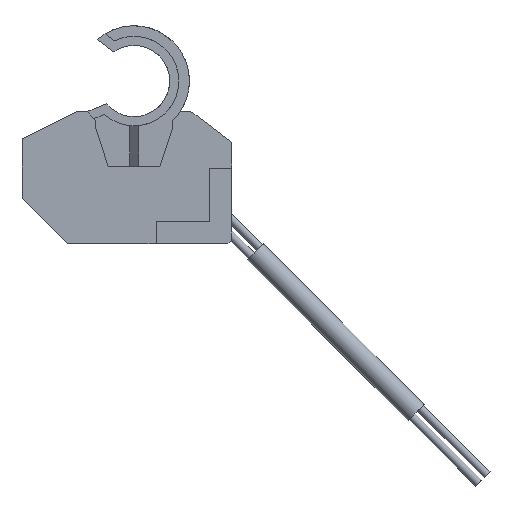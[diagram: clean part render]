
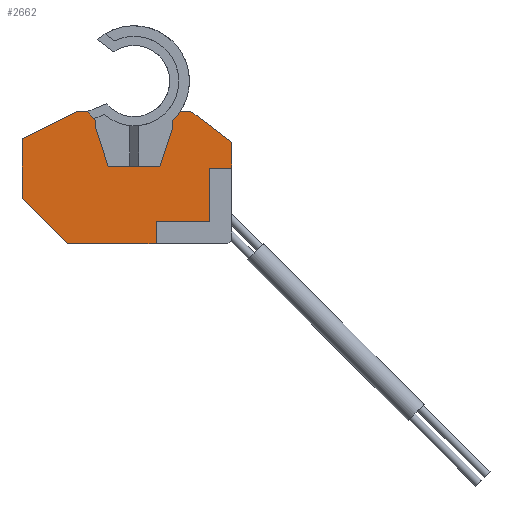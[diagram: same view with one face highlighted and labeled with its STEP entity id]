
A CAD part, left-side view. The second image highlights one B-rep face of the part: STEP entity #2662.
In plain terms, the highlighted planar face has unit normal (-1, 0, 0).
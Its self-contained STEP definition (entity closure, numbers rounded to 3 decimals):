
#28 = VECTOR ( 'NONE', #2427, 1000. ) ;
#102 = CARTESIAN_POINT ( 'NONE',  ( -3.35, -2.9, -21.5 ) ) ;
#112 = DIRECTION ( 'NONE',  ( 0., 0., 1. ) ) ;
#123 = CARTESIAN_POINT ( 'NONE',  ( -3.35, -12.9, -8.069 ) ) ;
#152 = ORIENTED_EDGE ( 'NONE', *, *, #3221, .T. ) ;
#159 = EDGE_CURVE ( 'NONE', #1053, #2196, #1012, .T. ) ;
#173 = CARTESIAN_POINT ( 'NONE',  ( -3.35, 5.05, -6.2 ) ) ;
#187 = VECTOR ( 'NONE', #1981, 1000. ) ;
#196 = DIRECTION ( 'NONE',  ( 0., 1., 0. ) ) ;
#239 = CARTESIAN_POINT ( 'NONE',  ( -3.35, -9.9, -11.5 ) ) ;
#281 = VERTEX_POINT ( 'NONE', #1157 ) ;
#322 = CARTESIAN_POINT ( 'NONE',  ( -3.35, 8.8, -21.5 ) ) ;
#326 = VERTEX_POINT ( 'NONE', #2699 ) ;
#338 = EDGE_CURVE ( 'NONE', #2275, #867, #1923, .T. ) ;
#357 = EDGE_CURVE ( 'NONE', #2403, #1660, #1167, .T. ) ;
#384 = LINE ( 'NONE', #626, #1658 ) ;
#404 = VECTOR ( 'NONE', #2999, 1000. ) ;
#422 = CARTESIAN_POINT ( 'NONE',  ( -3.35, 14.8, -7.6 ) ) ;
#426 = VECTOR ( 'NONE', #2698, 1000. ) ;
#456 = EDGE_CURVE ( 'NONE', #2764, #1929, #2576, .T. ) ;
#463 = CARTESIAN_POINT ( 'NONE',  ( -3.35, -2.9, -21.5 ) ) ;
#543 = LINE ( 'NONE', #2830, #3036 ) ;
#553 = CARTESIAN_POINT ( 'NONE',  ( -3.35, -7.5, -4. ) ) ;
#554 = CARTESIAN_POINT ( 'NONE',  ( -3.35, 14.8, -21.5 ) ) ;
#560 = VECTOR ( 'NONE', #196, 1000. ) ;
#563 = CARTESIAN_POINT ( 'NONE',  ( -3.35, 3.41, -11.25 ) ) ;
#571 = DIRECTION ( 'NONE',  ( 0., -1., 0. ) ) ;
#578 = DIRECTION ( 'NONE',  ( -1., 0., 0. ) ) ;
#622 = CARTESIAN_POINT ( 'NONE',  ( -3.35, -9.9, -18.5 ) ) ;
#626 = CARTESIAN_POINT ( 'NONE',  ( -3.35, -5.05, -6.2 ) ) ;
#672 = ORIENTED_EDGE ( 'NONE', *, *, #338, .F. ) ;
#689 = CARTESIAN_POINT ( 'NONE',  ( -3.35, -9.9, -21.5 ) ) ;
#698 = CARTESIAN_POINT ( 'NONE',  ( -3.35, 14.8, -18.5 ) ) ;
#719 = DIRECTION ( 'NONE',  ( 0., -0.309, -0.951 ) ) ;
#733 = CARTESIAN_POINT ( 'NONE',  ( -3.35, 5.05, -4. ) ) ;
#801 = ORIENTED_EDGE ( 'NONE', *, *, #1472, .F. ) ;
#814 = DIRECTION ( 'NONE',  ( 0., -1., 0. ) ) ;
#815 = VECTOR ( 'NONE', #2951, 1000. ) ;
#867 = VERTEX_POINT ( 'NONE', #622 ) ;
#886 = VERTEX_POINT ( 'NONE', #2418 ) ;
#899 = CARTESIAN_POINT ( 'NONE',  ( -3.35, 8.8, -21.5 ) ) ;
#901 = ORIENTED_EDGE ( 'NONE', *, *, #1917, .T. ) ;
#961 = CARTESIAN_POINT ( 'NONE',  ( -3.35, -12.9, -21.5 ) ) ;
#990 = CARTESIAN_POINT ( 'NONE',  ( -3.35, 14.8, -4. ) ) ;
#1012 = LINE ( 'NONE', #102, #815 ) ;
#1027 = ORIENTED_EDGE ( 'NONE', *, *, #2088, .F. ) ;
#1053 = VERTEX_POINT ( 'NONE', #2522 ) ;
#1060 = ORIENTED_EDGE ( 'NONE', *, *, #2021, .T. ) ;
#1112 = CARTESIAN_POINT ( 'NONE',  ( -3.35, 7.5, -4. ) ) ;
#1114 = LINE ( 'NONE', #2370, #1695 ) ;
#1122 = LINE ( 'NONE', #1646, #2412 ) ;
#1157 = CARTESIAN_POINT ( 'NONE',  ( -3.35, -5.05, -6.2 ) ) ;
#1167 = LINE ( 'NONE', #2286, #1755 ) ;
#1285 = DIRECTION ( 'NONE',  ( 0., -1., 0. ) ) ;
#1290 = EDGE_CURVE ( 'NONE', #1770, #2196, #2450, .T. ) ;
#1298 = VERTEX_POINT ( 'NONE', #2912 ) ;
#1308 = LINE ( 'NONE', #173, #2563 ) ;
#1331 = CARTESIAN_POINT ( 'NONE',  ( -3.35, -7.5, -4. ) ) ;
#1335 = EDGE_LOOP ( 'NONE', ( #1027, #2207, #2279, #901, #3181, #1060, #3126, #2445, #801, #672, #2430, #2929, #152, #2835, #2221, #1352, #3035 ) ) ;
#1352 = ORIENTED_EDGE ( 'NONE', *, *, #2385, .F. ) ;
#1362 = PLANE ( 'NONE',  #3224 ) ;
#1406 = DIRECTION ( 'NONE',  ( 0., 1., 0. ) ) ;
#1419 = VECTOR ( 'NONE', #3028, 1000. ) ;
#1448 = VERTEX_POINT ( 'NONE', #2724 ) ;
#1458 = EDGE_CURVE ( 'NONE', #1448, #2275, #1122, .T. ) ;
#1472 = EDGE_CURVE ( 'NONE', #867, #1053, #1743, .T. ) ;
#1551 = VECTOR ( 'NONE', #571, 1000. ) ;
#1580 = VERTEX_POINT ( 'NONE', #422 ) ;
#1598 = DIRECTION ( 'NONE',  ( 0., -0.309, 0.951 ) ) ;
#1601 = DIRECTION ( 'NONE',  ( 0., 0.799, 0.602 ) ) ;
#1646 = CARTESIAN_POINT ( 'NONE',  ( -3.35, 14.8, -11.5 ) ) ;
#1658 = VECTOR ( 'NONE', #112, 1000. ) ;
#1660 = VERTEX_POINT ( 'NONE', #2289 ) ;
#1671 = VECTOR ( 'NONE', #2008, 1000. ) ;
#1687 = CARTESIAN_POINT ( 'NONE',  ( -3.35, 5.05, -4. ) ) ;
#1695 = VECTOR ( 'NONE', #1598, 1000. ) ;
#1703 = VERTEX_POINT ( 'NONE', #553 ) ;
#1743 = LINE ( 'NONE', #698, #560 ) ;
#1755 = VECTOR ( 'NONE', #1996, 1000. ) ;
#1770 = VERTEX_POINT ( 'NONE', #322 ) ;
#1787 = LINE ( 'NONE', #899, #426 ) ;
#1862 = VECTOR ( 'NONE', #2757, 1000. ) ;
#1891 = EDGE_CURVE ( 'NONE', #281, #1298, #384, .T. ) ;
#1902 = LINE ( 'NONE', #2270, #187 ) ;
#1917 = EDGE_CURVE ( 'NONE', #886, #1580, #2936, .T. ) ;
#1923 = LINE ( 'NONE', #689, #404 ) ;
#1929 = VERTEX_POINT ( 'NONE', #2998 ) ;
#1978 = VERTEX_POINT ( 'NONE', #123 ) ;
#1981 = DIRECTION ( 'NONE',  ( 0., 0., 1. ) ) ;
#1996 = DIRECTION ( 'NONE',  ( 0., -1., 0. ) ) ;
#2008 = DIRECTION ( 'NONE',  ( 0., 0., -1. ) ) ;
#2021 = EDGE_CURVE ( 'NONE', #326, #1770, #1787, .T. ) ;
#2088 = EDGE_CURVE ( 'NONE', #1929, #2403, #1308, .T. ) ;
#2130 = EDGE_CURVE ( 'NONE', #326, #1580, #1902, .T. ) ;
#2177 = LINE ( 'NONE', #1331, #2877 ) ;
#2196 = VERTEX_POINT ( 'NONE', #463 ) ;
#2207 = ORIENTED_EDGE ( 'NONE', *, *, #456, .F. ) ;
#2221 = ORIENTED_EDGE ( 'NONE', *, *, #1891, .F. ) ;
#2269 = FACE_OUTER_BOUND ( 'NONE', #1335, .T. ) ;
#2270 = CARTESIAN_POINT ( 'NONE',  ( -3.35, 14.8, -21.5 ) ) ;
#2275 = VERTEX_POINT ( 'NONE', #239 ) ;
#2279 = ORIENTED_EDGE ( 'NONE', *, *, #2509, .F. ) ;
#2286 = CARTESIAN_POINT ( 'NONE',  ( -3.35, 3.41, -11.25 ) ) ;
#2289 = CARTESIAN_POINT ( 'NONE',  ( -3.35, -3.41, -11.25 ) ) ;
#2370 = CARTESIAN_POINT ( 'NONE',  ( -3.35, -3.41, -11.25 ) ) ;
#2385 = EDGE_CURVE ( 'NONE', #1660, #281, #1114, .T. ) ;
#2403 = VERTEX_POINT ( 'NONE', #563 ) ;
#2412 = VECTOR ( 'NONE', #1406, 1000. ) ;
#2418 = CARTESIAN_POINT ( 'NONE',  ( -3.35, 7.5, -4. ) ) ;
#2427 = DIRECTION ( 'NONE',  ( 0., 0.897, -0.442 ) ) ;
#2430 = ORIENTED_EDGE ( 'NONE', *, *, #1458, .F. ) ;
#2445 = ORIENTED_EDGE ( 'NONE', *, *, #159, .F. ) ;
#2450 = LINE ( 'NONE', #2651, #1551 ) ;
#2474 = LINE ( 'NONE', #990, #1862 ) ;
#2509 = EDGE_CURVE ( 'NONE', #886, #2764, #2474, .T. ) ;
#2522 = CARTESIAN_POINT ( 'NONE',  ( -3.35, -2.9, -18.5 ) ) ;
#2534 = EDGE_CURVE ( 'NONE', #1448, #1978, #2720, .T. ) ;
#2563 = VECTOR ( 'NONE', #719, 1000. ) ;
#2576 = LINE ( 'NONE', #733, #1671 ) ;
#2651 = CARTESIAN_POINT ( 'NONE',  ( -3.35, 14.8, -21.5 ) ) ;
#2662 = ADVANCED_FACE ( 'NONE', ( #2269 ), #1362, .T. ) ;
#2698 = DIRECTION ( 'NONE',  ( 0., -0.707, -0.707 ) ) ;
#2699 = CARTESIAN_POINT ( 'NONE',  ( -3.35, 14.8, -15.5 ) ) ;
#2720 = LINE ( 'NONE', #961, #1419 ) ;
#2724 = CARTESIAN_POINT ( 'NONE',  ( -3.35, -12.9, -11.5 ) ) ;
#2757 = DIRECTION ( 'NONE',  ( 0., -1., 0. ) ) ;
#2764 = VERTEX_POINT ( 'NONE', #1687 ) ;
#2830 = CARTESIAN_POINT ( 'NONE',  ( -3.35, 14.8, -4. ) ) ;
#2835 = ORIENTED_EDGE ( 'NONE', *, *, #3185, .F. ) ;
#2877 = VECTOR ( 'NONE', #1601, 1000. ) ;
#2912 = CARTESIAN_POINT ( 'NONE',  ( -3.35, -5.05, -4. ) ) ;
#2929 = ORIENTED_EDGE ( 'NONE', *, *, #2534, .T. ) ;
#2936 = LINE ( 'NONE', #1112, #28 ) ;
#2951 = DIRECTION ( 'NONE',  ( 0., 0., -1. ) ) ;
#2998 = CARTESIAN_POINT ( 'NONE',  ( -3.35, 5.05, -6.2 ) ) ;
#2999 = DIRECTION ( 'NONE',  ( 0., 0., -1. ) ) ;
#3028 = DIRECTION ( 'NONE',  ( 0., 0., 1. ) ) ;
#3035 = ORIENTED_EDGE ( 'NONE', *, *, #357, .F. ) ;
#3036 = VECTOR ( 'NONE', #1285, 1000. ) ;
#3126 = ORIENTED_EDGE ( 'NONE', *, *, #1290, .T. ) ;
#3181 = ORIENTED_EDGE ( 'NONE', *, *, #2130, .F. ) ;
#3185 = EDGE_CURVE ( 'NONE', #1298, #1703, #543, .T. ) ;
#3221 = EDGE_CURVE ( 'NONE', #1978, #1703, #2177, .T. ) ;
#3224 = AXIS2_PLACEMENT_3D ( 'NONE', #554, #578, #814 ) ;
